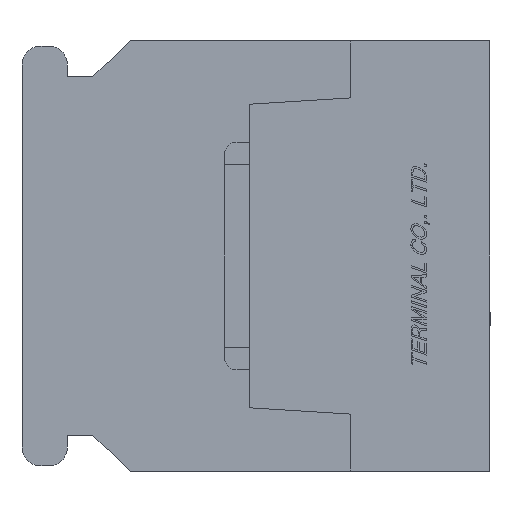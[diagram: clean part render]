
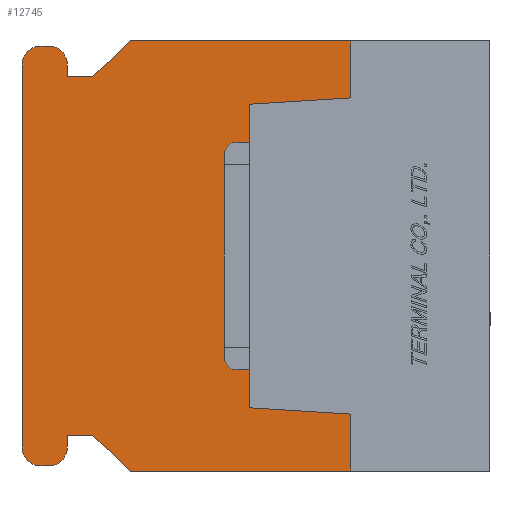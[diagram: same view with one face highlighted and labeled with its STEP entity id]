
A CAD part, left-side view. The second image highlights one B-rep face of the part: STEP entity #12745.
In plain terms, the highlighted planar face has unit normal (-1, 0, 0).
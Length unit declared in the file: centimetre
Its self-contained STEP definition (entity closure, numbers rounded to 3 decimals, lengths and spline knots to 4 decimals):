
#1474=VECTOR('',#15525,1.);
#1477=VECTOR('',#15529,1.);
#1479=VECTOR('',#15532,1.);
#1481=VECTOR('',#15535,1.);
#1483=VECTOR('',#15538,1.);
#1535=VECTOR('',#15631,1.);
#1537=VECTOR('',#15634,1.);
#1539=VECTOR('',#15637,1.);
#1541=VECTOR('',#15640,1.);
#1544=VECTOR('',#15648,1.);
#1547=VECTOR('',#15656,1.);
#1550=VECTOR('',#15664,1.);
#1553=VECTOR('',#15672,1.);
#1555=VECTOR('',#15675,1.);
#1557=VECTOR('',#15678,1.);
#1558=VECTOR('',#15680,1.);
#2854=LINE('',#19345,#1474);
#2857=LINE('',#19351,#1477);
#2859=LINE('',#19355,#1479);
#2861=LINE('',#19359,#1481);
#2863=LINE('',#19363,#1483);
#2915=LINE('',#19483,#1535);
#2917=LINE('',#19487,#1537);
#2919=LINE('',#19491,#1539);
#2921=LINE('',#19495,#1541);
#2924=LINE('',#19503,#1544);
#2927=LINE('',#19511,#1547);
#2930=LINE('',#19519,#1550);
#2933=LINE('',#19527,#1553);
#2935=LINE('',#19531,#1555);
#2937=LINE('',#19535,#1557);
#2938=LINE('',#19537,#1558);
#3688=PLANE('',#13604);
#4662=VERTEX_POINT('',#19344);
#4663=VERTEX_POINT('',#19346);
#4664=VERTEX_POINT('',#19350);
#4665=VERTEX_POINT('',#19354);
#4666=VERTEX_POINT('',#19358);
#4667=VERTEX_POINT('',#19362);
#4704=VERTEX_POINT('',#19482);
#4705=VERTEX_POINT('',#19486);
#4706=VERTEX_POINT('',#19490);
#4707=VERTEX_POINT('',#19494);
#4708=VERTEX_POINT('',#19498);
#4709=VERTEX_POINT('',#19502);
#4710=VERTEX_POINT('',#19506);
#4711=VERTEX_POINT('',#19510);
#4712=VERTEX_POINT('',#19514);
#4713=VERTEX_POINT('',#19518);
#4714=VERTEX_POINT('',#19522);
#4715=VERTEX_POINT('',#19526);
#4716=VERTEX_POINT('',#19530);
#4717=VERTEX_POINT('',#19534);
#5215=CIRCLE('',#13590,0.075);
#5216=CIRCLE('',#13593,0.075);
#5217=CIRCLE('',#13596,0.075);
#5218=CIRCLE('',#13599,0.075);
#6467=EDGE_CURVE('',#4663,#4662,#2854,.T.);
#6470=EDGE_CURVE('',#4662,#4664,#2857,.T.);
#6472=EDGE_CURVE('',#4664,#4665,#2859,.T.);
#6474=EDGE_CURVE('',#4665,#4666,#2861,.T.);
#6476=EDGE_CURVE('',#4666,#4667,#2863,.T.);
#6536=EDGE_CURVE('',#4704,#4667,#2915,.T.);
#6538=EDGE_CURVE('',#4705,#4704,#2917,.T.);
#6540=EDGE_CURVE('',#4706,#4705,#2919,.T.);
#6542=EDGE_CURVE('',#4707,#4706,#2921,.T.);
#6544=EDGE_CURVE('',#4708,#4707,#5215,.T.);
#6546=EDGE_CURVE('',#4709,#4708,#2924,.T.);
#6548=EDGE_CURVE('',#4710,#4709,#5216,.T.);
#6550=EDGE_CURVE('',#4711,#4710,#2927,.T.);
#6552=EDGE_CURVE('',#4712,#4711,#5217,.T.);
#6554=EDGE_CURVE('',#4713,#4712,#2930,.T.);
#6556=EDGE_CURVE('',#4714,#4713,#5218,.T.);
#6558=EDGE_CURVE('',#4715,#4714,#2933,.T.);
#6560=EDGE_CURVE('',#4716,#4715,#2935,.T.);
#6562=EDGE_CURVE('',#4717,#4716,#2937,.T.);
#6563=EDGE_CURVE('',#4663,#4717,#2938,.T.);
#9723=ORIENTED_EDGE('',*,*,#6476,.T.);
#9724=ORIENTED_EDGE('',*,*,#6536,.F.);
#9725=ORIENTED_EDGE('',*,*,#6538,.F.);
#9726=ORIENTED_EDGE('',*,*,#6540,.F.);
#9727=ORIENTED_EDGE('',*,*,#6542,.F.);
#9728=ORIENTED_EDGE('',*,*,#6544,.F.);
#9729=ORIENTED_EDGE('',*,*,#6546,.F.);
#9730=ORIENTED_EDGE('',*,*,#6548,.F.);
#9731=ORIENTED_EDGE('',*,*,#6550,.F.);
#9732=ORIENTED_EDGE('',*,*,#6552,.F.);
#9733=ORIENTED_EDGE('',*,*,#6554,.F.);
#9734=ORIENTED_EDGE('',*,*,#6556,.F.);
#9735=ORIENTED_EDGE('',*,*,#6558,.F.);
#9736=ORIENTED_EDGE('',*,*,#6560,.F.);
#9737=ORIENTED_EDGE('',*,*,#6562,.F.);
#9738=ORIENTED_EDGE('',*,*,#6563,.F.);
#9739=ORIENTED_EDGE('',*,*,#6467,.T.);
#9740=ORIENTED_EDGE('',*,*,#6470,.T.);
#9741=ORIENTED_EDGE('',*,*,#6472,.T.);
#9742=ORIENTED_EDGE('',*,*,#6474,.T.);
#11281=EDGE_LOOP('',(#9723,#9724,#9725,#9726,#9727,#9728,#9729,#9730,#9731,
#9732,#9733,#9734,#9735,#9736,#9737,#9738,#9739,#9740,#9741,#9742));
#12045=FACE_BOUND('',#11281,.T.);
#12745=ADVANCED_FACE('',(#12045),#3688,.F.);
#13590=AXIS2_PLACEMENT_3D('',#19499,#15644,#15645);
#13593=AXIS2_PLACEMENT_3D('',#19507,#15652,#15653);
#13596=AXIS2_PLACEMENT_3D('',#19515,#15660,#15661);
#13599=AXIS2_PLACEMENT_3D('',#19523,#15668,#15669);
#13604=AXIS2_PLACEMENT_3D('',#19538,#15681,$);
#15525=DIRECTION('',(0.,0.,1.));
#15529=DIRECTION('',(0.,0.998,0.062));
#15532=DIRECTION('',(0.,0.,1.));
#15535=DIRECTION('',(0.,-0.998,0.062));
#15538=DIRECTION('',(0.,0.,1.));
#15631=DIRECTION('',(0.,-1.,0.));
#15634=DIRECTION('',(0.,-0.731,0.682));
#15637=DIRECTION('',(0.,-1.,0.));
#15640=DIRECTION('',(0.,0.,-1.));
#15644=DIRECTION('',(1.,0.,0.));
#15645=DIRECTION('',(0.,0.,-0.075));
#15648=DIRECTION('',(0.,-1.,0.));
#15652=DIRECTION('',(1.,0.,0.));
#15653=DIRECTION('',(0.,0.,-0.075));
#15656=DIRECTION('',(0.,0.,1.));
#15660=DIRECTION('',(1.,0.,0.));
#15661=DIRECTION('',(0.,0.,-0.075));
#15664=DIRECTION('',(0.,1.,0.));
#15668=DIRECTION('',(1.,0.,0.));
#15669=DIRECTION('',(0.,0.,-0.075));
#15672=DIRECTION('',(0.,0.,-1.));
#15675=DIRECTION('',(0.,1.,0.));
#15678=DIRECTION('',(0.,0.731,0.682));
#15680=DIRECTION('',(0.,1.,0.));
#15681=DIRECTION('',(1.,0.,0.));
#19344=CARTESIAN_POINT('',(0.,0.55,-0.625));
#19345=CARTESIAN_POINT('',(0.,0.55,-0.3688));
#19346=CARTESIAN_POINT('',(0.,0.55,-0.85));
#19350=CARTESIAN_POINT('',(0.,0.95,-0.6));
#19351=CARTESIAN_POINT('',(0.,0.8629,-0.6054));
#19354=CARTESIAN_POINT('',(0.,0.95,0.6));
#19355=CARTESIAN_POINT('',(0.,0.95,0.));
#19358=CARTESIAN_POINT('',(0.,0.55,0.625));
#19359=CARTESIAN_POINT('',(0.,0.8629,0.6054));
#19362=CARTESIAN_POINT('',(0.,0.55,0.85));
#19363=CARTESIAN_POINT('',(0.,0.55,0.3687));
#19482=CARTESIAN_POINT('',(0.,1.42,0.85));
#19483=CARTESIAN_POINT('',(0.,1.42,0.85));
#19486=CARTESIAN_POINT('',(0.,1.57,0.71));
#19487=CARTESIAN_POINT('',(0.,1.57,0.71));
#19490=CARTESIAN_POINT('',(0.,1.67,0.71));
#19491=CARTESIAN_POINT('',(0.,1.67,0.71));
#19494=CARTESIAN_POINT('',(0.,1.67,0.755));
#19495=CARTESIAN_POINT('',(0.,1.67,0.755));
#19498=CARTESIAN_POINT('',(0.,1.745,0.83));
#19499=CARTESIAN_POINT('',(0.,1.745,0.755));
#19502=CARTESIAN_POINT('',(0.,1.775,0.83));
#19503=CARTESIAN_POINT('',(0.,1.775,0.83));
#19506=CARTESIAN_POINT('',(0.,1.85,0.755));
#19507=CARTESIAN_POINT('',(0.,1.775,0.755));
#19510=CARTESIAN_POINT('',(0.,1.85,-0.755));
#19511=CARTESIAN_POINT('',(0.,1.85,-0.755));
#19514=CARTESIAN_POINT('',(0.,1.775,-0.83));
#19515=CARTESIAN_POINT('',(0.,1.775,-0.755));
#19518=CARTESIAN_POINT('',(0.,1.745,-0.83));
#19519=CARTESIAN_POINT('',(0.,1.745,-0.83));
#19522=CARTESIAN_POINT('',(0.,1.67,-0.755));
#19523=CARTESIAN_POINT('',(0.,1.745,-0.755));
#19526=CARTESIAN_POINT('',(0.,1.67,-0.71));
#19527=CARTESIAN_POINT('',(0.,1.67,-0.71));
#19530=CARTESIAN_POINT('',(0.,1.57,-0.71));
#19531=CARTESIAN_POINT('',(0.,1.57,-0.71));
#19534=CARTESIAN_POINT('',(0.,1.42,-0.85));
#19535=CARTESIAN_POINT('',(0.,1.42,-0.85));
#19537=CARTESIAN_POINT('',(0.,0.,-0.85));
#19538=CARTESIAN_POINT('',(0.,0.9383,0.));
